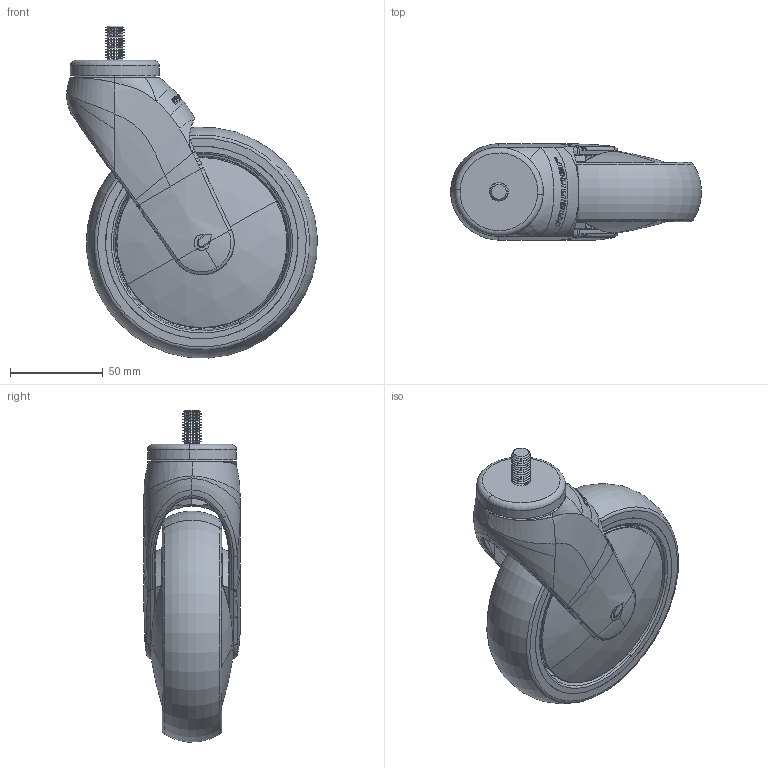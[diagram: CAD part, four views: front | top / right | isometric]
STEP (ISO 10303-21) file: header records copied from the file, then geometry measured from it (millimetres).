
FILE_DESCRIPTION (( 'STEP AP203' ), '1' );
FILE_NAME ('301676_STEP.STEP', '2011-06-10T08:34:14', ( '' ), ( '' ), 'SwSTEP 2.0', 'SolidWorks 2011', '' );
FILE_SCHEMA (( 'CONFIG_CONTROL_DESIGN' ));
Length unit declared in the file: millimetre
Products named in the file (1): 301676_STEP
Bounding box: 135.31 x 52.08 x 179.26 mm (x, y, z)
Surface area: 97041.6 mm2 (no closed solid volume)
Topology: 0 solids, 21 shells, 442 faces, 1463 edges, 988 vertices
Faces by surface type: bspline 209, torus 74, cone 65, cylinder 47, plane 43, sphere 4
Entity records: 95344 total; most frequent: CARTESIAN_POINT 84931, ORIENTED_EDGE 2497, EDGE_CURVE 1455, DIRECTION 1428, VERTEX_POINT 988, B_SPLINE_CURVE_WITH_KNOTS 868, AXIS2_PLACEMENT_3D 629, EDGE_LOOP 468
